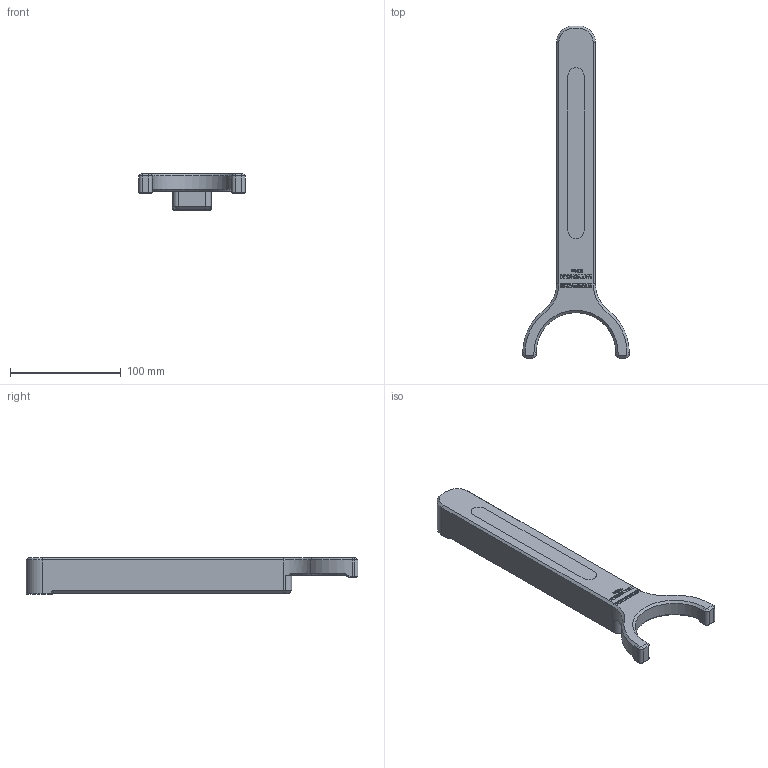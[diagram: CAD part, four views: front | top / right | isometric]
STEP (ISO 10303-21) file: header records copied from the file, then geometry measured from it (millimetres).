
FILE_DESCRIPTION(/* description */ (''),/* implementation_level */ '2;1');
FILE_NAME(/* name */ 'LM-3060-4547-A_UCT CLAMP.stp',/* time_stamp */ '2026-03-17T14:50:09Z',/* author */ (''),/* organization */ (''),/* preprocessor_version */ 'ST-DEVELOPER v20',/* originating_system */ 'SIEMENS PLM Software NX2312.9162',/* authorisation */ '');
FILE_SCHEMA (('AUTOMOTIVE_DESIGN { 1 0 10303 214 3 1 1 1 }'));
Length unit declared in the file: millimetre
Products named in the file (1): LM-3060-4547_objects
Bounding box: 96 x 300 x 33 mm (x, y, z)
Volume: 296721 mm3; surface area: 40236.7 mm2
Topology: 1 solids, 1 shells, 157 faces, 545 edges, 435 vertices
Faces by surface type: plane 94, cone 44, cylinder 19
Entity records: 7008 total; most frequent: CARTESIAN_POINT 2328, ORIENTED_EDGE 1090, DIRECTION 694, EDGE_CURVE 545, VERTEX_POINT 435, B_SPLINE_CURVE_WITH_KNOTS 277, AXIS2_PLACEMENT_3D 268, EDGE_LOOP 202
